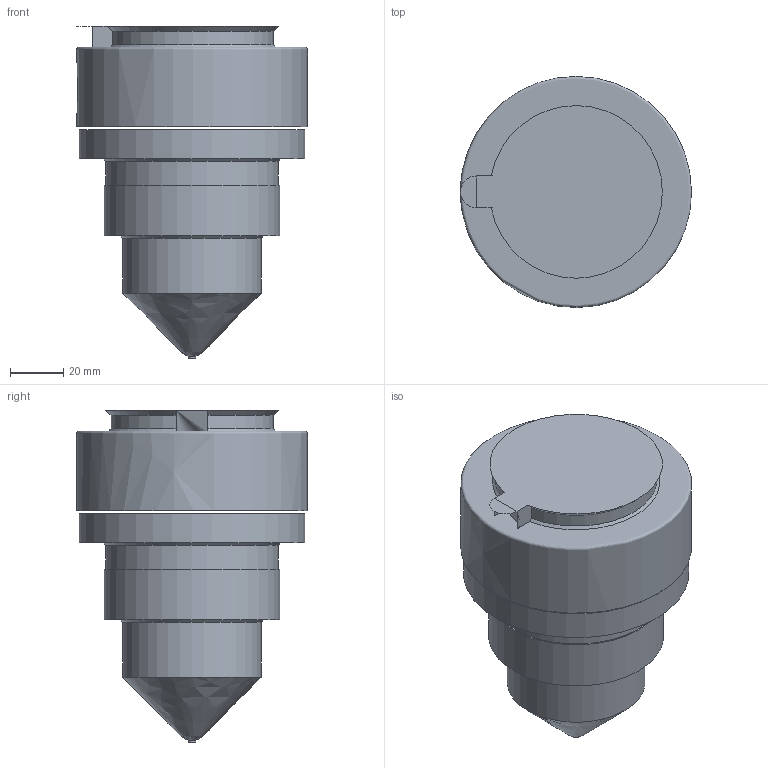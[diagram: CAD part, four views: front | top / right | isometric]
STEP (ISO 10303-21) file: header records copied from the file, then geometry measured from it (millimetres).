
FILE_DESCRIPTION(('STEP AP214'),'1');
FILE_NAME('SEDE IPS5000-A.stp','2018-06-13T12:36:44',(' '),(' '),'Spatial InterOp 3D',' ',' ');
FILE_SCHEMA(('AUTOMOTIVE_DESIGN { 1 0 10303 214 1 1 1 1 }'));
Length unit declared in the file: millimetre
Products named in the file (1): 1
Bounding box: 87 x 87 x 125 mm (x, y, z)
Volume: 428864.1 mm3; surface area: 46927.6 mm2
Topology: 2 solids, 2 shells, 23 faces, 43 edges, 27 vertices
Faces by surface type: plane 9, cylinder 7, cone 4, revolution 3
Full cylindrical faces by diameter (mm): 3 x1, 12 x1, 52 x1, 65 x1, 66 x1, 85 x1
Entity records: 755 total; most frequent: CARTESIAN_POINT 153, DIRECTION 90, ORIENTED_EDGE 62, AXIS2_PLACEMENT_3D 40, EDGE_LOOP 34, EDGE_CURVE 31, FACE_OUTER_BOUND 29, VERTEX_POINT 25
